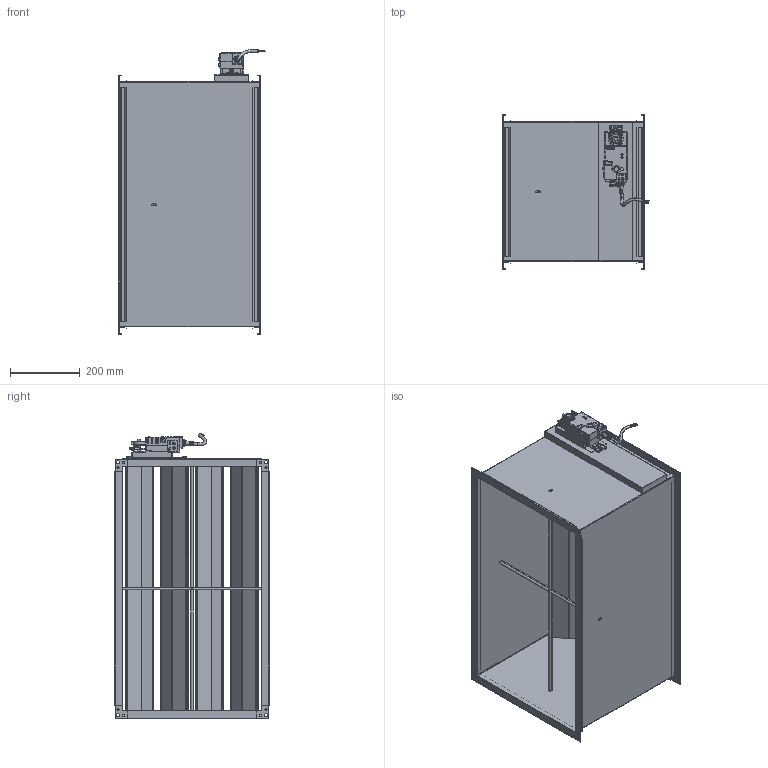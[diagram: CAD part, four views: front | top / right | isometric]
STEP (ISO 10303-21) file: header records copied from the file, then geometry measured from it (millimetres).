
FILE_DESCRIPTION (( 'STEP AP214' ), '1' );
FILE_NAME ('VAV-S700400.STEP', '2025-05-08T11:43:42', ( '' ), ( '' ), 'SwSTEP 2.0', 'SolidWorks 2025', '' );
FILE_SCHEMA (( 'AUTOMOTIVE_DESIGN' ));
Length unit declared in the file: millimetre
Products named in the file (1): VAV-S700400
Bounding box: 418.66 x 441 x 813.69 mm (x, y, z)
Surface area: 3336283.8 mm2 (no closed solid volume)
Topology: 0 solids, 48 shells, 2078 faces, 5415 edges, 3441 vertices
Faces by surface type: plane 1533, cylinder 492, bspline 24, sphere 18, cone 10, torus 1
Full cylindrical faces by diameter (mm): 1 x4, 6 x17, 8 x1, 9 x8, 11 x1, 20 x1, 21 x2
Entity records: 91037 total; most frequent: CARTESIAN_POINT 41235, ORIENTED_EDGE 10611, DIRECTION 6797, EDGE_CURVE 5329, VERTEX_POINT 3413, B_SPLINE_CURVE_WITH_KNOTS 3154, AXIS2_PLACEMENT_3D 2591, EDGE_LOOP 2281
